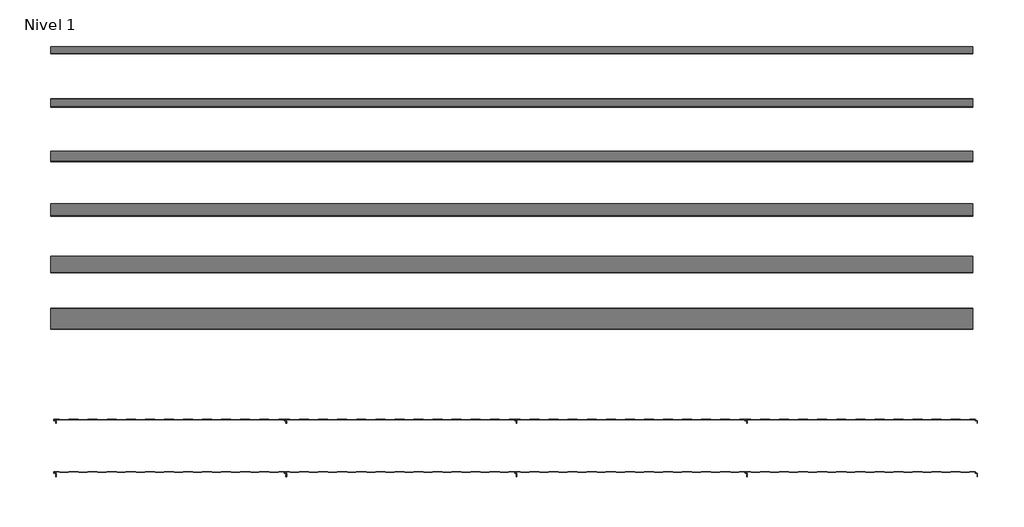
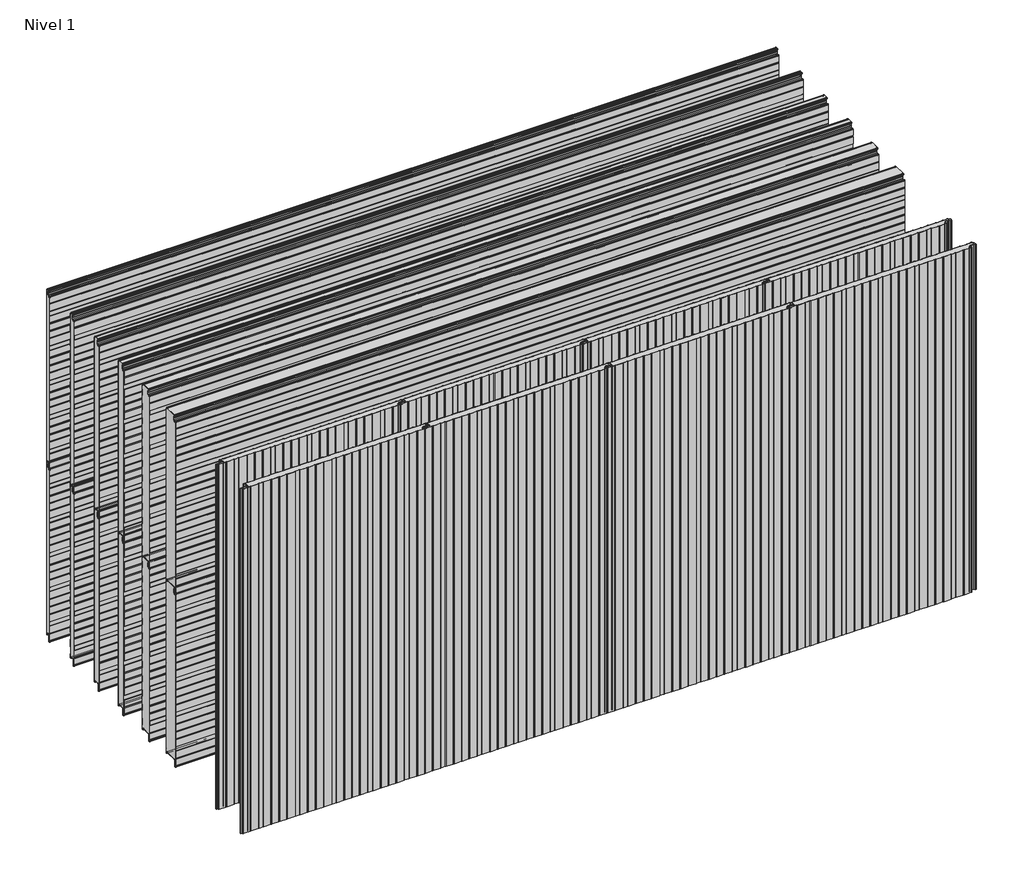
# One storey, incomplete: 20 plates.
"""IFC4 building model written with IfcOpenShell, lengths in millimetres."""

from ifc_helpers import new_model, si_unit, origin, place, context, project, spatial, transform, mapped, element, save
from components import plate_100_mm_383df81c, plate_100_mm_e56b490d, plate_100_mm_1e41f837, plate_35_mm_2cd82b16, plate_35_mm_6cc62642, plate_35_mm_239c5791, plate_35_mm_bfe862cc, plate_40_mm_7dbaa8e2, plate_40_mm_d91b21d4, plate_40_mm_b86c170f, plate_40_mm_bdf23f91, plate_50_mm_0243a9b0, plate_50_mm_d58d4b2a, plate_60_mm_b1e50855, plate_60_mm_b20e5aa9, plate_80_mm_0c97a696, plate_80_mm_b6b1f14f

model = new_model("IFC4")

# Units and contexts
model_context = context("Model", 3, world=origin())
ifc_project = project(units=[si_unit("LENGTHUNIT", "METRE", prefix="MILLI")], contexts=[model_context])

# Site, building, storey
site = spatial("IfcSite", under=ifc_project)
building = spatial("IfcBuilding", under=site)
storey = spatial("IfcBuildingStorey", under=building, Name="Nivel 1", Elevation=0.0)

# Plates
placement = place(None, origin())
plate_100_mm_shape = plate_100_mm_383df81c(model_context)
plate_100_mm_2_shape = plate_100_mm_e56b490d(model_context)
plate_100_mm_3_shape = plate_100_mm_1e41f837(model_context)
element("IfcPlate", 1, ObjectType="HIANSA PANEL - H20.F02.002-PANELES DE FACHADA HORIZONTAL - PANEL PERFILADO - Panel de Muro Cortina : 100 mm", at=placement, inside=storey, context=model_context, shape_type="MappedRepresentation", body=[
    mapped(plate_100_mm_shape, transform((6468.14367, 17686.5269271, 0.0), x_axis=(1.0, 0.0, 0.0), y_axis=(0.0, 1.0, 0.0), z_axis=(0.0, 0.0, 1.0))),
    mapped(plate_100_mm_2_shape, transform((6468.14367, 17686.5269271, 0.0), x_axis=(1.0, 0.0, 0.0), y_axis=(0.0, 1.0, 0.0), z_axis=(0.0, 0.0, 1.0))),
    mapped(plate_100_mm_3_shape, transform((6468.14367, 17686.5269271, 0.0), x_axis=(1.0, 0.0, 0.0), y_axis=(0.0, 1.0, 0.0), z_axis=(0.0, 0.0, 1.0))),
])
element("IfcPlate", 2, ObjectType="HIANSA PANEL - H20.F02.002-PANELES DE FACHADA HORIZONTAL - PANEL PERFILADO - Panel de Muro Cortina : 100 mm", at=placement, inside=storey, context=model_context, shape_type="MappedRepresentation", body=[
    mapped(plate_100_mm_shape, transform((6468.14367, 17686.5269271, 1100.0), x_axis=(1.0, 0.0, 0.0), y_axis=(0.0, 1.0, 0.0), z_axis=(0.0, 0.0, 1.0))),
    mapped(plate_100_mm_2_shape, transform((6468.14367, 17686.5269271, 1100.0), x_axis=(1.0, 0.0, 0.0), y_axis=(0.0, 1.0, 0.0), z_axis=(0.0, 0.0, 1.0))),
    mapped(plate_100_mm_3_shape, transform((6468.14367, 17686.5269271, 1100.0), x_axis=(1.0, 0.0, 0.0), y_axis=(0.0, 1.0, 0.0), z_axis=(0.0, 0.0, 1.0))),
])
plate_35_mm_shape = plate_35_mm_2cd82b16(model_context)
plate_35_mm_2_shape = plate_35_mm_6cc62642(model_context)
element("IfcPlate", 3, ObjectType="HIANSA PANEL - H20.F02.002-PANELES DE FACHADA HORIZONTAL - PANEL PERFILADO - Panel de Muro Cortina : 35 mm", at=placement, inside=storey, context=model_context, shape_type="MappedRepresentation", body=[
    mapped(plate_35_mm_shape, transform((6468.14367, 18936.5269271, 0.0), x_axis=(1.0, 0.0, 0.0), y_axis=(0.0, 1.0, 0.0), z_axis=(0.0, 0.0, 1.0))),
    mapped(plate_35_mm_2_shape, transform((6468.14367, 18936.5269271, 0.0), x_axis=(1.0, 0.0, 0.0), y_axis=(0.0, 1.0, 0.0), z_axis=(0.0, 0.0, 1.0))),
    mapped(plate_100_mm_3_shape, transform((6468.14367, 18936.5269271, 0.0), x_axis=(1.0, 0.0, 0.0), y_axis=(0.0, 1.0, 0.0), z_axis=(0.0, 0.0, 1.0))),
])
element("IfcPlate", 4, ObjectType="HIANSA PANEL - H20.F02.002-PANELES DE FACHADA HORIZONTAL - PANEL PERFILADO - Panel de Muro Cortina : 35 mm", at=placement, inside=storey, context=model_context, shape_type="MappedRepresentation", body=[
    mapped(plate_35_mm_shape, transform((6468.14367, 18936.5269271, 1100.0), x_axis=(1.0, 0.0, 0.0), y_axis=(0.0, 1.0, 0.0), z_axis=(0.0, 0.0, 1.0))),
    mapped(plate_35_mm_2_shape, transform((6468.14367, 18936.5269271, 1100.0), x_axis=(1.0, 0.0, 0.0), y_axis=(0.0, 1.0, 0.0), z_axis=(0.0, 0.0, 1.0))),
    mapped(plate_100_mm_3_shape, transform((6468.14367, 18936.5269271, 1100.0), x_axis=(1.0, 0.0, 0.0), y_axis=(0.0, 1.0, 0.0), z_axis=(0.0, 0.0, 1.0))),
])
plate_35_mm_3_shape = plate_35_mm_239c5791(model_context)
plate_35_mm_4_shape = plate_35_mm_bfe862cc(model_context)
element("IfcPlate", 5, ObjectType="HIANSA PANEL - H20.F02.002-PANELES DE FACHADA VERTICAL - PANEL PERFILADO - Panel de Muro Cortina : 35 mm", at=placement, inside=storey, context=model_context, shape_type="MappedRepresentation", body=[
    mapped(plate_35_mm_3_shape, transform((4818.1436702, 17156.5269271, 0.0), x_axis=(1.0, 0.0, 0.0), y_axis=(0.0, 1.0, 0.0), z_axis=(0.0, 0.0, 1.0))),
    mapped(plate_35_mm_4_shape, transform((4818.1436702, 17156.5269271, 0.0), x_axis=(1.0, 0.0, 0.0), y_axis=(0.0, 1.0, 0.0), z_axis=(0.0, 0.0, 1.0))),
])
element("IfcPlate", 6, ObjectType="HIANSA PANEL - H20.F02.002-PANELES DE FACHADA VERTICAL - PANEL PERFILADO - Panel de Muro Cortina : 35 mm", at=placement, inside=storey, context=model_context, shape_type="MappedRepresentation", body=[
    mapped(plate_35_mm_3_shape, transform((5918.1436703, 17156.5269271, 0.0), x_axis=(1.0, 0.0, 0.0), y_axis=(0.0, 1.0, 0.0), z_axis=(0.0, 0.0, 1.0))),
    mapped(plate_35_mm_4_shape, transform((5918.1436703, 17156.5269271, 0.0), x_axis=(1.0, 0.0, 0.0), y_axis=(0.0, 1.0, 0.0), z_axis=(0.0, 0.0, 1.0))),
])
element("IfcPlate", 7, ObjectType="HIANSA PANEL - H20.F02.002-PANELES DE FACHADA VERTICAL - PANEL PERFILADO - Panel de Muro Cortina : 35 mm", at=placement, inside=storey, context=model_context, shape_type="MappedRepresentation", body=[
    mapped(plate_35_mm_3_shape, transform((7018.1436703, 17156.5269271, 0.0), x_axis=(1.0, 0.0, 0.0), y_axis=(0.0, 1.0, 0.0), z_axis=(0.0, 0.0, 1.0))),
    mapped(plate_35_mm_4_shape, transform((7018.1436703, 17156.5269271, 0.0), x_axis=(1.0, 0.0, 0.0), y_axis=(0.0, 1.0, 0.0), z_axis=(0.0, 0.0, 1.0))),
])
element("IfcPlate", 8, ObjectType="HIANSA PANEL - H20.F02.002-PANELES DE FACHADA VERTICAL - PANEL PERFILADO - Panel de Muro Cortina : 35 mm", at=placement, inside=storey, context=model_context, shape_type="MappedRepresentation", body=[
    mapped(plate_35_mm_3_shape, transform((8118.1436702, 17156.5269271, 0.0), x_axis=(1.0, 0.0, 0.0), y_axis=(0.0, 1.0, 0.0), z_axis=(0.0, 0.0, 1.0))),
    mapped(plate_35_mm_4_shape, transform((8118.1436702, 17156.5269271, 0.0), x_axis=(1.0, 0.0, 0.0), y_axis=(0.0, 1.0, 0.0), z_axis=(0.0, 0.0, 1.0))),
])
plate_40_mm_shape = plate_40_mm_7dbaa8e2(model_context)
plate_40_mm_2_shape = plate_40_mm_d91b21d4(model_context)
element("IfcPlate", 9, ObjectType="HIANSA PANEL - H20.F02.002-PANELES DE FACHADA HORIZONTAL - PANEL PERFILADO - Panel de Muro Cortina : 40 mm", at=placement, inside=storey, context=model_context, shape_type="MappedRepresentation", body=[
    mapped(plate_40_mm_shape, transform((6468.14367, 18686.5269271, 0.0), x_axis=(1.0, 0.0, 0.0), y_axis=(0.0, 1.0, 0.0), z_axis=(0.0, 0.0, 1.0))),
    mapped(plate_40_mm_2_shape, transform((6468.14367, 18686.5269271, 0.0), x_axis=(1.0, 0.0, 0.0), y_axis=(0.0, 1.0, 0.0), z_axis=(0.0, 0.0, 1.0))),
    mapped(plate_100_mm_3_shape, transform((6468.14367, 18686.5269271, 0.0), x_axis=(1.0, 0.0, 0.0), y_axis=(0.0, 1.0, 0.0), z_axis=(0.0, 0.0, 1.0))),
])
element("IfcPlate", 10, ObjectType="HIANSA PANEL - H20.F02.002-PANELES DE FACHADA HORIZONTAL - PANEL PERFILADO - Panel de Muro Cortina : 40 mm", at=placement, inside=storey, context=model_context, shape_type="MappedRepresentation", body=[
    mapped(plate_40_mm_shape, transform((6468.14367, 18686.5269271, 1100.0), x_axis=(1.0, 0.0, 0.0), y_axis=(0.0, 1.0, 0.0), z_axis=(0.0, 0.0, 1.0))),
    mapped(plate_40_mm_2_shape, transform((6468.14367, 18686.5269271, 1100.0), x_axis=(1.0, 0.0, 0.0), y_axis=(0.0, 1.0, 0.0), z_axis=(0.0, 0.0, 1.0))),
    mapped(plate_100_mm_3_shape, transform((6468.14367, 18686.5269271, 1100.0), x_axis=(1.0, 0.0, 0.0), y_axis=(0.0, 1.0, 0.0), z_axis=(0.0, 0.0, 1.0))),
])
plate_40_mm_3_shape = plate_40_mm_b86c170f(model_context)
plate_40_mm_4_shape = plate_40_mm_bdf23f91(model_context)
element("IfcPlate", 11, ObjectType="HIANSA PANEL - H20.F02.002-PANELES DE FACHADA VERTICAL - PANEL PERFILADO - Panel de Muro Cortina : 40 mm", at=placement, inside=storey, context=model_context, shape_type="MappedRepresentation", body=[
    mapped(plate_40_mm_3_shape, transform((4818.1436702, 16906.5269271, 0.0), x_axis=(1.0, 0.0, 0.0), y_axis=(0.0, 1.0, 0.0), z_axis=(0.0, 0.0, 1.0))),
    mapped(plate_40_mm_4_shape, transform((4818.1436702, 16906.5269271, 0.0), x_axis=(1.0, 0.0, 0.0), y_axis=(0.0, 1.0, 0.0), z_axis=(0.0, 0.0, 1.0))),
])
element("IfcPlate", 12, ObjectType="HIANSA PANEL - H20.F02.002-PANELES DE FACHADA VERTICAL - PANEL PERFILADO - Panel de Muro Cortina : 40 mm", at=placement, inside=storey, context=model_context, shape_type="MappedRepresentation", body=[
    mapped(plate_40_mm_3_shape, transform((5918.1436703, 16906.5269271, 0.0), x_axis=(1.0, 0.0, 0.0), y_axis=(0.0, 1.0, 0.0), z_axis=(0.0, 0.0, 1.0))),
    mapped(plate_40_mm_4_shape, transform((5918.1436703, 16906.5269271, 0.0), x_axis=(1.0, 0.0, 0.0), y_axis=(0.0, 1.0, 0.0), z_axis=(0.0, 0.0, 1.0))),
])
element("IfcPlate", 13, ObjectType="HIANSA PANEL - H20.F02.002-PANELES DE FACHADA VERTICAL - PANEL PERFILADO - Panel de Muro Cortina : 40 mm", at=placement, inside=storey, context=model_context, shape_type="MappedRepresentation", body=[
    mapped(plate_40_mm_3_shape, transform((7018.1436703, 16906.5269271, 0.0), x_axis=(1.0, 0.0, 0.0), y_axis=(0.0, 1.0, 0.0), z_axis=(0.0, 0.0, 1.0))),
    mapped(plate_40_mm_4_shape, transform((7018.1436703, 16906.5269271, 0.0), x_axis=(1.0, 0.0, 0.0), y_axis=(0.0, 1.0, 0.0), z_axis=(0.0, 0.0, 1.0))),
])
element("IfcPlate", 14, ObjectType="HIANSA PANEL - H20.F02.002-PANELES DE FACHADA VERTICAL - PANEL PERFILADO - Panel de Muro Cortina : 40 mm", at=placement, inside=storey, context=model_context, shape_type="MappedRepresentation", body=[
    mapped(plate_40_mm_3_shape, transform((8118.1436702, 16906.5269271, 0.0), x_axis=(1.0, 0.0, 0.0), y_axis=(0.0, 1.0, 0.0), z_axis=(0.0, 0.0, 1.0))),
    mapped(plate_40_mm_4_shape, transform((8118.1436702, 16906.5269271, 0.0), x_axis=(1.0, 0.0, 0.0), y_axis=(0.0, 1.0, 0.0), z_axis=(0.0, 0.0, 1.0))),
])
plate_50_mm_shape = plate_50_mm_0243a9b0(model_context)
plate_50_mm_2_shape = plate_50_mm_d58d4b2a(model_context)
element("IfcPlate", 15, ObjectType="HIANSA PANEL - H20.F02.002-PANELES DE FACHADA HORIZONTAL - PANEL PERFILADO - Panel de Muro Cortina : 50 mm", at=placement, inside=storey, context=model_context, shape_type="MappedRepresentation", body=[
    mapped(plate_50_mm_shape, transform((6468.14367, 18436.5269271, 0.0), x_axis=(1.0, 0.0, 0.0), y_axis=(0.0, 1.0, 0.0), z_axis=(0.0, 0.0, 1.0))),
    mapped(plate_50_mm_2_shape, transform((6468.14367, 18436.5269271, 0.0), x_axis=(1.0, 0.0, 0.0), y_axis=(0.0, 1.0, 0.0), z_axis=(0.0, 0.0, 1.0))),
    mapped(plate_100_mm_3_shape, transform((6468.14367, 18436.5269271, 0.0), x_axis=(1.0, 0.0, 0.0), y_axis=(0.0, 1.0, 0.0), z_axis=(0.0, 0.0, 1.0))),
])
element("IfcPlate", 16, ObjectType="HIANSA PANEL - H20.F02.002-PANELES DE FACHADA HORIZONTAL - PANEL PERFILADO - Panel de Muro Cortina : 50 mm", at=placement, inside=storey, context=model_context, shape_type="MappedRepresentation", body=[
    mapped(plate_50_mm_shape, transform((6468.14367, 18436.5269271, 1100.0), x_axis=(1.0, 0.0, 0.0), y_axis=(0.0, 1.0, 0.0), z_axis=(0.0, 0.0, 1.0))),
    mapped(plate_50_mm_2_shape, transform((6468.14367, 18436.5269271, 1100.0), x_axis=(1.0, 0.0, 0.0), y_axis=(0.0, 1.0, 0.0), z_axis=(0.0, 0.0, 1.0))),
    mapped(plate_100_mm_3_shape, transform((6468.14367, 18436.5269271, 1100.0), x_axis=(1.0, 0.0, 0.0), y_axis=(0.0, 1.0, 0.0), z_axis=(0.0, 0.0, 1.0))),
])
plate_60_mm_shape = plate_60_mm_b1e50855(model_context)
plate_60_mm_2_shape = plate_60_mm_b20e5aa9(model_context)
element("IfcPlate", 17, ObjectType="HIANSA PANEL - H20.F02.002-PANELES DE FACHADA HORIZONTAL - PANEL PERFILADO - Panel de Muro Cortina : 60 mm", at=placement, inside=storey, context=model_context, shape_type="MappedRepresentation", body=[
    mapped(plate_60_mm_shape, transform((6468.14367, 18186.5269271, 0.0), x_axis=(1.0, 0.0, 0.0), y_axis=(0.0, 1.0, 0.0), z_axis=(0.0, 0.0, 1.0))),
    mapped(plate_60_mm_2_shape, transform((6468.14367, 18186.5269271, 0.0), x_axis=(1.0, 0.0, 0.0), y_axis=(0.0, 1.0, 0.0), z_axis=(0.0, 0.0, 1.0))),
    mapped(plate_100_mm_3_shape, transform((6468.14367, 18186.5269271, 0.0), x_axis=(1.0, 0.0, 0.0), y_axis=(0.0, 1.0, 0.0), z_axis=(0.0, 0.0, 1.0))),
])
element("IfcPlate", 18, ObjectType="HIANSA PANEL - H20.F02.002-PANELES DE FACHADA HORIZONTAL - PANEL PERFILADO - Panel de Muro Cortina : 60 mm", at=placement, inside=storey, context=model_context, shape_type="MappedRepresentation", body=[
    mapped(plate_60_mm_shape, transform((6468.14367, 18186.5269271, 1100.0), x_axis=(1.0, 0.0, 0.0), y_axis=(0.0, 1.0, 0.0), z_axis=(0.0, 0.0, 1.0))),
    mapped(plate_60_mm_2_shape, transform((6468.14367, 18186.5269271, 1100.0), x_axis=(1.0, 0.0, 0.0), y_axis=(0.0, 1.0, 0.0), z_axis=(0.0, 0.0, 1.0))),
    mapped(plate_100_mm_3_shape, transform((6468.14367, 18186.5269271, 1100.0), x_axis=(1.0, 0.0, 0.0), y_axis=(0.0, 1.0, 0.0), z_axis=(0.0, 0.0, 1.0))),
])
plate_80_mm_shape = plate_80_mm_0c97a696(model_context)
plate_80_mm_2_shape = plate_80_mm_b6b1f14f(model_context)
element("IfcPlate", 19, ObjectType="HIANSA PANEL - H20.F02.002-PANELES DE FACHADA HORIZONTAL - PANEL PERFILADO - Panel de Muro Cortina : 80 mm", at=placement, inside=storey, context=model_context, shape_type="MappedRepresentation", body=[
    mapped(plate_80_mm_shape, transform((6468.14367, 17936.5269271, 0.0), x_axis=(1.0, 0.0, 0.0), y_axis=(0.0, 1.0, 0.0), z_axis=(0.0, 0.0, 1.0))),
    mapped(plate_80_mm_2_shape, transform((6468.14367, 17936.5269271, 0.0), x_axis=(1.0, 0.0, 0.0), y_axis=(0.0, 1.0, 0.0), z_axis=(0.0, 0.0, 1.0))),
    mapped(plate_100_mm_3_shape, transform((6468.14367, 17936.5269271, 0.0), x_axis=(1.0, 0.0, 0.0), y_axis=(0.0, 1.0, 0.0), z_axis=(0.0, 0.0, 1.0))),
])
element("IfcPlate", 20, ObjectType="HIANSA PANEL - H20.F02.002-PANELES DE FACHADA HORIZONTAL - PANEL PERFILADO - Panel de Muro Cortina : 80 mm", at=placement, inside=storey, context=model_context, shape_type="MappedRepresentation", body=[
    mapped(plate_80_mm_shape, transform((6468.14367, 17936.5269271, 1100.0), x_axis=(1.0, 0.0, 0.0), y_axis=(0.0, 1.0, 0.0), z_axis=(0.0, 0.0, 1.0))),
    mapped(plate_80_mm_2_shape, transform((6468.14367, 17936.5269271, 1100.0), x_axis=(1.0, 0.0, 0.0), y_axis=(0.0, 1.0, 0.0), z_axis=(0.0, 0.0, 1.0))),
    mapped(plate_100_mm_3_shape, transform((6468.14367, 17936.5269271, 1100.0), x_axis=(1.0, 0.0, 0.0), y_axis=(0.0, 1.0, 0.0), z_axis=(0.0, 0.0, 1.0))),
])

save(model, "model.ifc")
